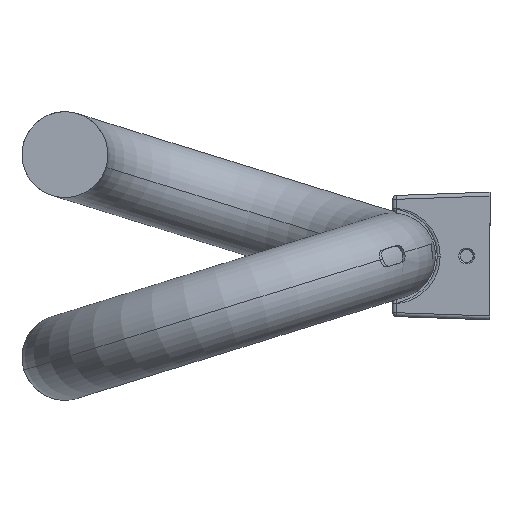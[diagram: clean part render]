
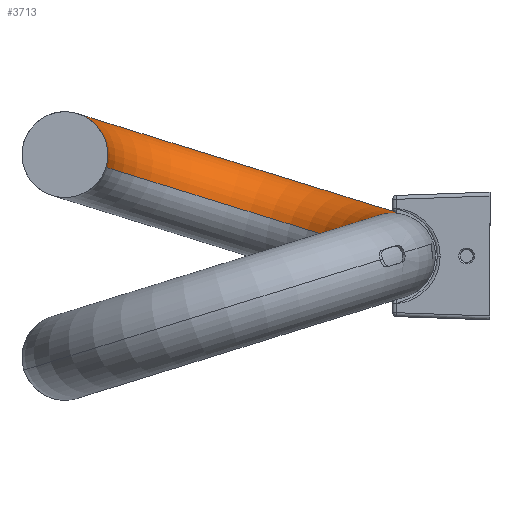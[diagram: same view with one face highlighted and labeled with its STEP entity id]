
A CAD part, front view. The second image highlights one B-rep face of the part: STEP entity #3713.
In plain terms, the highlighted toroidal (fillet/blend) face has major radius 43.966 mm and minor radius 11 mm.
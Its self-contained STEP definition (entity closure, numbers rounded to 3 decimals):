
#82 = CARTESIAN_POINT ( 'NONE',  ( -67., 50., 13. ) ) ;
#88 = ORIENTED_EDGE ( 'NONE', *, *, #5393, .T. ) ;
#116 = ORIENTED_EDGE ( 'NONE', *, *, #3113, .F. ) ;
#170 = DIRECTION ( 'NONE',  ( 0., 1., 0. ) ) ;
#288 = CARTESIAN_POINT ( 'NONE',  ( -14., 50., 0. ) ) ;
#357 = VERTEX_POINT ( 'NONE', #3816 ) ;
#382 = VERTEX_POINT ( 'NONE', #574 ) ;
#437 = ORIENTED_EDGE ( 'NONE', *, *, #790, .T. ) ;
#574 = CARTESIAN_POINT ( 'NONE',  ( -119.508, 50., 29.253 ) ) ;
#575 = DIRECTION ( 'NONE',  ( 0.296, 0., 0.955 ) ) ;
#689 = EDGE_CURVE ( 'NONE', #357, #382, #1300, .T. ) ;
#697 = CARTESIAN_POINT ( 'NONE',  ( -14.492, 50., -3.253 ) ) ;
#749 = DIRECTION ( 'NONE',  ( 1., 0., 0. ) ) ;
#760 = DIRECTION ( 'NONE',  ( 1., 0., 0. ) ) ;
#790 = EDGE_CURVE ( 'NONE', #3932, #3928, #5245, .T. ) ;
#1129 = DIRECTION ( 'NONE',  ( 0.955, 0., -0.296 ) ) ;
#1214 = AXIS2_PLACEMENT_3D ( 'NONE', #82, #575, #2792 ) ;
#1300 = CIRCLE ( 'NONE', #2240, 11. ) ;
#1411 = CIRCLE ( 'NONE', #3663, 54.966 ) ;
#1539 = DIRECTION ( 'NONE',  ( -0.825, 0., 0.565 ) ) ;
#1674 = DIRECTION ( 'NONE',  ( 0.955, 0., -0.296 ) ) ;
#2240 = AXIS2_PLACEMENT_3D ( 'NONE', #5695, #2957, #749 ) ;
#2263 = AXIS2_PLACEMENT_3D ( 'NONE', #2459, #5581, #3434 ) ;
#2459 = CARTESIAN_POINT ( 'NONE',  ( -25., 50., 0. ) ) ;
#2464 = CARTESIAN_POINT ( 'NONE',  ( -67., 50., 13. ) ) ;
#2512 = CARTESIAN_POINT ( 'NONE',  ( -67., 50., 13. ) ) ;
#2792 = DIRECTION ( 'NONE',  ( 0.955, 0., -0.296 ) ) ;
#2840 = FACE_OUTER_BOUND ( 'NONE', #5190, .T. ) ;
#2957 = DIRECTION ( 'NONE',  ( 0., -1., 0. ) ) ;
#2998 = CARTESIAN_POINT ( 'NONE',  ( -109., 50., 26. ) ) ;
#3113 = EDGE_CURVE ( 'NONE', #3312, #5039, #4203, .T. ) ;
#3284 = CIRCLE ( 'NONE', #3949, 11. ) ;
#3312 = VERTEX_POINT ( 'NONE', #5280 ) ;
#3419 = CARTESIAN_POINT ( 'NONE',  ( -98.492, 50., 22.747 ) ) ;
#3434 = DIRECTION ( 'NONE',  ( -0.825, 0., 0.565 ) ) ;
#3488 = CIRCLE ( 'NONE', #2263, 11. ) ;
#3572 = ORIENTED_EDGE ( 'NONE', *, *, #689, .F. ) ;
#3658 = AXIS2_PLACEMENT_3D ( 'NONE', #2512, #5221, #1129 ) ;
#3663 = AXIS2_PLACEMENT_3D ( 'NONE', #2464, #5706, #1674 ) ;
#3713 = ADVANCED_FACE ( 'NONE', ( #2840 ), #4408, .T. ) ;
#3816 = CARTESIAN_POINT ( 'NONE',  ( -98., 50., 26. ) ) ;
#3902 = EDGE_CURVE ( 'NONE', #3928, #382, #1411, .T. ) ;
#3928 = VERTEX_POINT ( 'NONE', #697 ) ;
#3932 = VERTEX_POINT ( 'NONE', #288 ) ;
#3949 = AXIS2_PLACEMENT_3D ( 'NONE', #2998, #4786, #760 ) ;
#4174 = CARTESIAN_POINT ( 'NONE',  ( -25., 50., 0. ) ) ;
#4199 = AXIS2_PLACEMENT_3D ( 'NONE', #4174, #170, #1539 ) ;
#4203 = CIRCLE ( 'NONE', #3658, 32.966 ) ;
#4408 = TOROIDAL_SURFACE ( 'NONE', #1214, 43.966, 11. ) ;
#4468 = EDGE_CURVE ( 'NONE', #5039, #357, #3284, .T. ) ;
#4783 = ORIENTED_EDGE ( 'NONE', *, *, #3902, .T. ) ;
#4786 = DIRECTION ( 'NONE',  ( 0., -1., 0. ) ) ;
#5039 = VERTEX_POINT ( 'NONE', #3419 ) ;
#5190 = EDGE_LOOP ( 'NONE', ( #437, #4783, #3572, #5356, #116, #88 ) ) ;
#5221 = DIRECTION ( 'NONE',  ( 0.296, 0., 0.955 ) ) ;
#5245 = CIRCLE ( 'NONE', #4199, 11. ) ;
#5280 = CARTESIAN_POINT ( 'NONE',  ( -35.508, 50., 3.253 ) ) ;
#5356 = ORIENTED_EDGE ( 'NONE', *, *, #4468, .F. ) ;
#5393 = EDGE_CURVE ( 'NONE', #3312, #3932, #3488, .T. ) ;
#5581 = DIRECTION ( 'NONE',  ( 0., 1., 0. ) ) ;
#5695 = CARTESIAN_POINT ( 'NONE',  ( -109., 50., 26. ) ) ;
#5706 = DIRECTION ( 'NONE',  ( 0.296, 0., 0.955 ) ) ;
